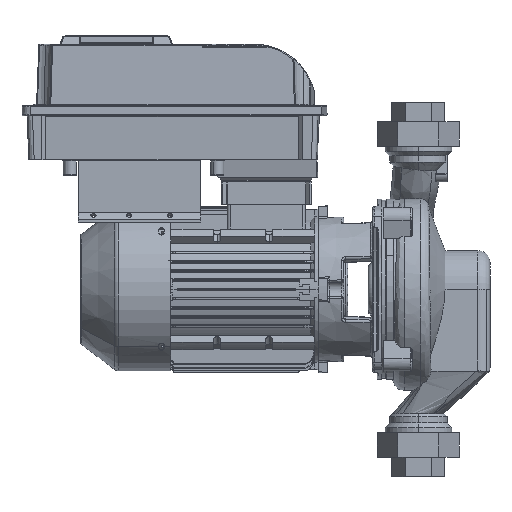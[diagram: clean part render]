
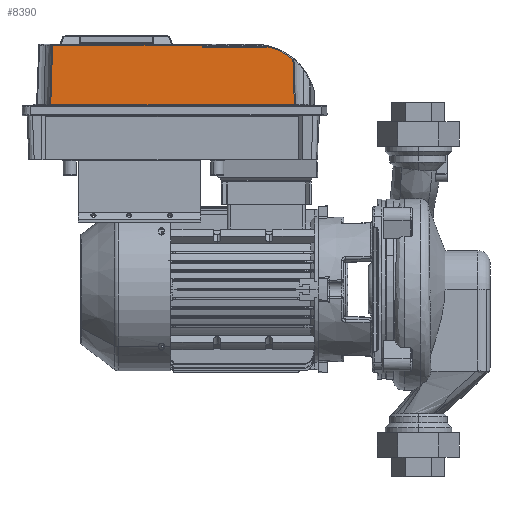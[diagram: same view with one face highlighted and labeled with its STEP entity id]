
A CAD part, left-side view. The second image highlights one B-rep face of the part: STEP entity #8390.
In plain terms, the highlighted planar face has unit normal (-0.999, 0, 0.035) as drawn and (0.999, 0, -0.035) by its records, which use the part's own axes.
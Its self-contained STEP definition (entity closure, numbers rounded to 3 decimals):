
#8390=ADVANCED_FACE('',(#17114),#17115,.F.);
#17114=FACE_OUTER_BOUND('',#38841,.T.);
#17115=PLANE('',#38842);
#38841=EDGE_LOOP('',(#60221,#60222,#60223,#60224,#60225,#60226,#60227));
#38842=AXIS2_PLACEMENT_3D('',#60228,#60229,#60230);
#60221=ORIENTED_EDGE('',*,*,#91137,.T.);
#60222=ORIENTED_EDGE('',*,*,#91125,.F.);
#60223=ORIENTED_EDGE('',*,*,#90344,.F.);
#60224=ORIENTED_EDGE('',*,*,#91138,.F.);
#60225=ORIENTED_EDGE('',*,*,#90271,.F.);
#60226=ORIENTED_EDGE('',*,*,#91139,.F.);
#60227=ORIENTED_EDGE('',*,*,#91140,.F.);
#60228=CARTESIAN_POINT('',(-14.0,85.982,60.0));
#60229=DIRECTION('',(-0.999,0.,0.035));
#60230=DIRECTION('',(0.035,-0.0,0.999));
#90271=EDGE_CURVE('',#114175,#114177,#114178,.T.);
#90344=EDGE_CURVE('',#114303,#114305,#114306,.T.);
#91125=EDGE_CURVE('',#114305,#115423,#115424,.T.);
#91137=EDGE_CURVE('',#115438,#115423,#115439,.T.);
#91138=EDGE_CURVE('',#114177,#114303,#115440,.T.);
#91139=EDGE_CURVE('',#115441,#114175,#115442,.T.);
#91140=EDGE_CURVE('',#115438,#115441,#115443,.T.);
#114175=VERTEX_POINT('',#134135);
#114177=VERTEX_POINT('',#134155);
#114178=LINE('',#134156,#134157);
#114303=VERTEX_POINT('',#134703);
#114305=VERTEX_POINT('',#134716);
#114306=LINE('',#134717,#134718);
#115423=VERTEX_POINT('',#137530);
#115424=LINE('',#137531,#137532);
#115438=VERTEX_POINT('',#137569);
#115439=LINE('',#137570,#137571);
#115440=B_SPLINE_CURVE_WITH_KNOTS('',3,(#137572,#137573,#137574,#137575,#137576,#137577,#137578,#137579,#137580,#137581,#137582,#137583,#137584,#137585,#137586,#137587,#137588,#137589),.UNSPECIFIED.,.F.,.F.,(4,2,2,2,2,2,2,2,4),(-60.135,-51.622,-41.425,-35.052,-31.069,-27.085,-20.712,-10.516,-2.002),.UNSPECIFIED.);
#115441=VERTEX_POINT('',#137590);
#115442=B_SPLINE_CURVE_WITH_KNOTS('',3,(#137591,#137592,#137593,#137594,#137595,#137596,#137597,#137598,#137599,#137600,#137601,#137602,#137603,#137604,#137605,#137606,#137607,#137608),.UNSPECIFIED.,.F.,.F.,(4,2,2,2,2,2,2,2,4),(2.165,8.251,16.253,21.254,24.379,27.505,32.505,40.507,46.752),.UNSPECIFIED.);
#115443=ELLIPSE('',#137609,59.036,59.0);
#134135=CARTESIAN_POINT('',(-14.034,39.053,59.035));
#134155=CARTESIAN_POINT('',(-14.034,277.053,59.035));
#134156=CARTESIAN_POINT('',(-14.034,243.721,59.035));
#134157=VECTOR('',#164716,1.0);
#134703=CARTESIAN_POINT('',(-16.062,275.263,0.965));
#134716=CARTESIAN_POINT('',(-16.062,129.042,0.965));
#134717=CARTESIAN_POINT('',(-16.062,42.991,0.965));
#134718=VECTOR('',#164793,1.0);
#137530=CARTESIAN_POINT('',(-15.992,129.042,2.965));
#137531=CARTESIAN_POINT('',(-15.027,129.042,30.598));
#137532=VECTOR('',#165586,1.0);
#137569=CARTESIAN_POINT('',(-15.992,62.811,2.965));
#137570=CARTESIAN_POINT('',(-15.992,107.012,2.965));
#137571=VECTOR('',#165601,1.0);
#137572=CARTESIAN_POINT('',(-14.034,277.053,59.035));
#137573=CARTESIAN_POINT('',(-14.133,276.961,56.2));
#137574=CARTESIAN_POINT('',(-14.232,276.869,53.366));
#137575=CARTESIAN_POINT('',(-14.449,276.669,47.136));
#137576=CARTESIAN_POINT('',(-14.568,276.561,43.741));
#137577=CARTESIAN_POINT('',(-14.76,276.388,38.224));
#137578=CARTESIAN_POINT('',(-14.835,276.322,36.102));
#137579=CARTESIAN_POINT('',(-14.955,276.215,32.653));
#137580=CARTESIAN_POINT('',(-15.001,276.174,31.327));
#137581=CARTESIAN_POINT('',(-15.094,276.092,28.675));
#137582=CARTESIAN_POINT('',(-15.14,276.051,27.348));
#137583=CARTESIAN_POINT('',(-15.261,275.946,23.9));
#137584=CARTESIAN_POINT('',(-15.335,275.882,21.778));
#137585=CARTESIAN_POINT('',(-15.527,275.715,16.26));
#137586=CARTESIAN_POINT('',(-15.646,275.614,12.865));
#137587=CARTESIAN_POINT('',(-15.864,275.429,6.635));
#137588=CARTESIAN_POINT('',(-15.963,275.346,3.8));
#137589=CARTESIAN_POINT('',(-16.062,275.263,0.965));
#137590=CARTESIAN_POINT('',(-15.589,40.444,14.496));
#137591=CARTESIAN_POINT('',(-15.589,40.444,14.496));
#137592=CARTESIAN_POINT('',(-15.518,40.384,16.523));
#137593=CARTESIAN_POINT('',(-15.447,40.323,18.55));
#137594=CARTESIAN_POINT('',(-15.284,40.181,23.241));
#137595=CARTESIAN_POINT('',(-15.191,40.1,25.905));
#137596=CARTESIAN_POINT('',(-15.039,39.967,30.235));
#137597=CARTESIAN_POINT('',(-14.981,39.915,31.9));
#137598=CARTESIAN_POINT('',(-14.887,39.832,34.606));
#137599=CARTESIAN_POINT('',(-14.85,39.799,35.646));
#137600=CARTESIAN_POINT('',(-14.778,39.734,37.728));
#137601=CARTESIAN_POINT('',(-14.741,39.702,38.768));
#137602=CARTESIAN_POINT('',(-14.647,39.617,41.474));
#137603=CARTESIAN_POINT('',(-14.589,39.564,43.139));
#137604=CARTESIAN_POINT('',(-14.438,39.427,47.469));
#137605=CARTESIAN_POINT('',(-14.345,39.342,50.133));
#137606=CARTESIAN_POINT('',(-14.179,39.189,54.876));
#137607=CARTESIAN_POINT('',(-14.106,39.121,56.956));
#137608=CARTESIAN_POINT('',(-14.034,39.053,59.035));
#137609=AXIS2_PLACEMENT_3D('',#165602,#165603,#165604);
#164716=DIRECTION('',(0.,1.0,0.0));
#164793=DIRECTION('',(0.,-1.0,0.0));
#165586=DIRECTION('',(0.035,-0.0,0.999));
#165601=DIRECTION('',(0.,1.0,0.0));
#165602=CARTESIAN_POINT('',(-14.001,78.042,59.965));
#165603=DIRECTION('',(-0.999,0.,0.035));
#165604=DIRECTION('',(-0.035,0.,-0.999));
